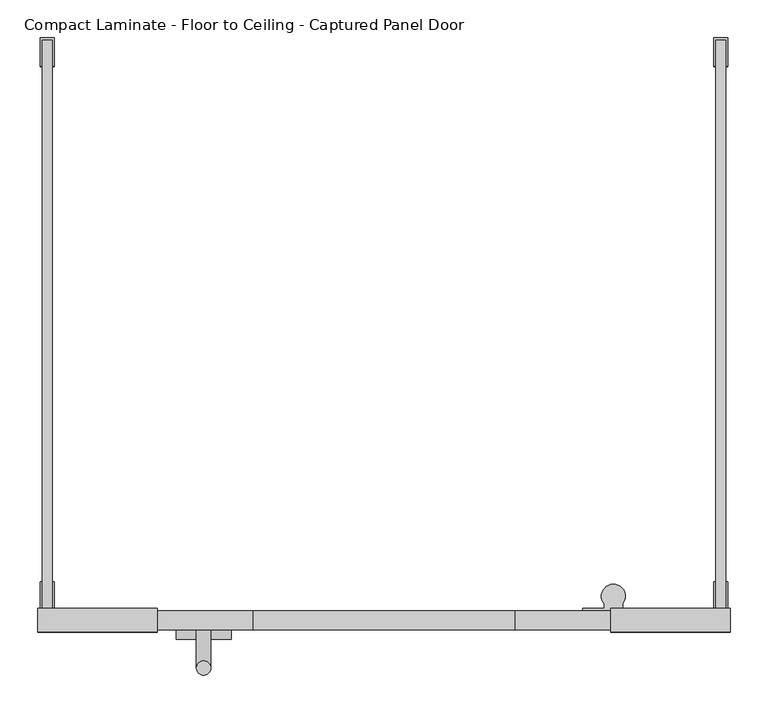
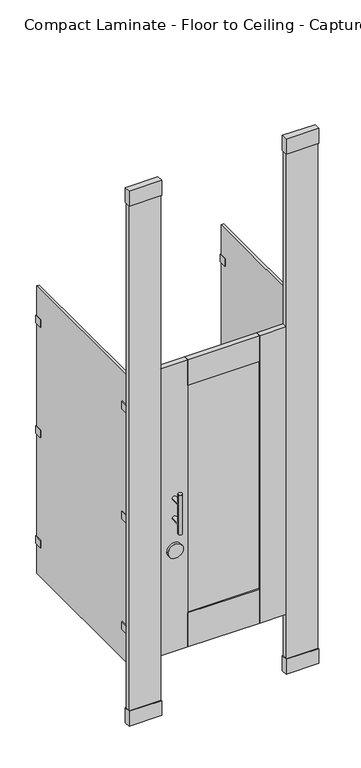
"""IFC4 building model written with IfcOpenShell, lengths in millimetres: proxy geometry, Toilet-Partition_Ironwood-Mfg_Compact-Laminate : Compact Laminate - Floor to Ceiling - Captured Panel Door."""

from ifc_helpers import new_model, si_unit, point, frame, frame_2d, origin, origin_with_axes, place, context, project, spatial, polyline, circle_curve, ellipse_curve, trimmed, segment, composite_curve, outline, extrude, source, transform, mapped, element, save
from ifc_brep_helpers import plane_surface, cylinder_surface, advanced_brep


def compact_laminate_floor_to_ceiling_captured_panel_door_38d99a87(model_context):
    return source(origin(), model_context, "Body", "SolidModel", [
        extrude(outline(polyline([(542.925, -790.575), (542.925, -758.825), (701.675, -758.825), (701.675, -790.575), (542.925, -790.575)])), frame((0.0, 0.0, 2667.0), z_axis=(0.0, 0.0, 1.0), x_axis=(1.0, 0.0, 0.0)), (0.0, 0.0, 1.0), 76.1999999),
        extrude(outline(polyline([(701.675, -758.825), (701.675, -790.575), (542.925, -790.575), (542.925, -758.825), (701.675, -758.825)])), origin_with_axes(), (0.0, 0.0, 1.0), 76.2),
        extrude(outline(polyline([(698.5, -762.0), (698.5, -787.4), (546.1, -787.4), (546.1, -762.0), (698.5, -762.0)])), origin_with_axes(), (0.0, 0.0, 1.0), 2667.0),
        extrude(outline(polyline([(-60.325, -790.575), (-219.075, -790.575), (-219.075, -758.825), (-60.325, -758.825), (-60.325, -790.575)])), frame((0.0, 0.0, 2667.0), z_axis=(0.0, 0.0, 1.0), x_axis=(1.0, 0.0, 0.0)), (0.0, 0.0, 1.0), 76.1999999),
        extrude(outline(polyline([(-219.075, -758.825), (-60.325, -758.825), (-60.325, -790.575), (-219.075, -790.575), (-219.075, -758.825)])), origin_with_axes(), (0.0, 0.0, 1.0), 76.2),
        extrude(outline(polyline([(-215.9, -762.0), (-63.5, -762.0), (-63.5, -787.4), (-215.9, -787.4), (-215.9, -762.0)])), origin_with_axes(), (0.0, 0.0, 1.0), 2667.0),
        extrude(outline(polyline([(415.925, -781.05), (66.675, -781.05), (66.675, -768.35), (415.925, -768.35), (415.925, -781.05)])), frame((0.0, 0.0, 479.425), z_axis=(0.0, 0.0, 1.0), x_axis=(1.0, 0.0, 0.0)), (0.0, 0.0, 1.0), 1168.4),
        extrude(outline(polyline([(66.675, -762.0), (66.675, -787.4), (-63.5, -787.4), (-63.5, -762.0), (66.675, -762.0)])), frame((0.0, 0.0, 304.8), z_axis=(0.0, 0.0, 1.0), x_axis=(1.0, 0.0, 0.0)), (0.0, 0.0, 1.0), 1473.2),
        extrude(outline(polyline([(415.925, -762.0), (546.1, -762.0), (546.1, -787.4), (415.925, -787.4), (415.925, -762.0)])), frame((0.0, 0.0, 304.8), z_axis=(0.0, 0.0, 1.0), x_axis=(1.0, 0.0, 0.0)), (0.0, 0.0, 1.0), 1473.2),
        extrude(outline(polyline([(415.925, -762.0), (415.925, -787.4), (66.675, -787.4), (66.675, -762.0), (415.925, -762.0)])), frame((0.0, 0.0, 1647.825), z_axis=(0.0, 0.0, 1.0), x_axis=(1.0, 0.0, 0.0)), (0.0, 0.0, 1.0), 130.175),
        extrude(outline(polyline([(415.925, -762.0), (415.925, -787.4), (66.675, -787.4), (66.675, -762.0), (415.925, -762.0)])), frame((0.0, 0.0, 304.8), z_axis=(0.0, 0.0, 1.0), x_axis=(1.0, 0.0, 0.0)), (0.0, 0.0, 1.0), 174.625),
        extrude(outline(composite_curve([segment(trimmed(circle_curve(frame_2d((827.0875, 1.5875)), 36.5125), [point((827.0875, -34.925))], [point((827.0875, 38.1))], False, "CARTESIAN"), True, "CONTINUOUS"), segment(trimmed(circle_curve(frame_2d((827.0875, 1.5875)), 36.5125), [point((827.0875, 38.1))], [point((827.0875, -34.925))], False, "CARTESIAN"), True, "CONTINUOUS")], self_intersect=False)), frame((0.0, -800.1, 0.0), z_axis=(0.0, 1.0, 0.0), x_axis=(0.0, 0.0, 1.0)), (0.0, 0.0, 1.0), 12.7),
        advanced_brep(
        [(-7.9375, -787.4, 1092.2), (11.1125, -787.4, 1092.2), (-7.9375, -787.4, 990.6), (11.1125, -787.4, 990.6), (11.1125, -838.2, 1092.2), (-7.9375, -838.2, 1092.2), (11.1125, -838.2, 990.6), (-7.9375, -838.2, 990.6), (-7.9375, -838.2, 1143.0), (11.1125, -838.2, 1143.0), (-7.9375, -838.2, 939.8), (11.1125, -838.2, 939.8)],
        [
            (0, 1, circle_curve(frame((1.5875, -787.4, 1092.2), z_axis=(0.0, 1.0, 0.0), x_axis=(1.0, 0.0, 0.0)), 9.525)),
            (1, 0, circle_curve(frame((1.5875, -787.4, 1092.2), z_axis=(0.0, 1.0, 0.0), x_axis=(1.0, 0.0, 0.0)), 9.525)),
            (2, 3, circle_curve(frame((1.5875, -787.4, 990.6), z_axis=(0.0, 1.0, 0.0), x_axis=(1.0, 0.0, 0.0)), 9.525)),
            (3, 2, circle_curve(frame((1.5875, -787.4, 990.6), z_axis=(0.0, 1.0, 0.0), x_axis=(1.0, 0.0, 0.0)), 9.525)),
            (1, 4),
            (4, 5, ellipse_curve(frame((1.5875, -838.2, 1092.2), z_axis=(0.0, 0.7071067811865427, 0.7071067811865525), x_axis=(0.0, -0.7071067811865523, 0.7071067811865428)), 13.4703842, 9.525)),
            (5, 0),
            (5, 4, ellipse_curve(frame((1.5875, -838.2, 1092.2), z_axis=(0.0, 0.7071067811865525, -0.7071067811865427), x_axis=(0.0, -0.7071067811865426, -0.7071067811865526)), 13.4703842, 9.525)),
            (3, 6),
            (6, 7, ellipse_curve(frame((1.5875, -838.2, 990.6), z_axis=(0.0, 0.7071067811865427, 0.7071067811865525), x_axis=(0.0, -0.7071067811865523, 0.7071067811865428)), 13.4703842, 9.525)),
            (7, 2),
            (7, 6, ellipse_curve(frame((1.5875, -838.2, 990.6), z_axis=(0.0, 0.7071067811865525, -0.7071067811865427), x_axis=(0.0, -0.7071067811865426, -0.7071067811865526)), 13.4703842, 9.525)),
            (8, 9, circle_curve(frame((1.5875, -838.2, 1143.0), z_axis=(0.0, 0.0, 1.0), x_axis=(1.0, 0.0, 0.0)), 9.525)),
            (9, 8, circle_curve(frame((1.5875, -838.2, 1143.0), z_axis=(0.0, 0.0, 1.0), x_axis=(1.0, 0.0, 0.0)), 9.525)),
            (10, 11, circle_curve(frame((1.5875, -838.2, 939.8), z_axis=(0.0, 0.0, -1.0), x_axis=(1.0, 0.0, 0.0)), 9.525)),
            (11, 10, circle_curve(frame((1.5875, -838.2, 939.8), z_axis=(0.0, 0.0, -1.0), x_axis=(1.0, 0.0, 0.0)), 9.525)),
            (8, 5),
            (5, 7),
            (7, 10),
            (11, 6),
            (6, 4),
            (4, 9),
        ],
        [
            plane_surface(frame((11.1125, -787.4, 1092.2), z_axis=(0.0, 1.0, 0.0), x_axis=(0.0, 0.0, -1.0))),
            cylinder_surface(frame((1.5875, -787.4, 1092.2), z_axis=(0.0, -1.0, 0.0), x_axis=(1.0, 0.0, 0.0)), 9.525),
            cylinder_surface(frame((1.5875, -787.4, 990.6), z_axis=(0.0, -1.0, 0.0), x_axis=(1.0, 0.0, 0.0)), 9.525),
            plane_surface(frame((11.1125, -838.2, 1143.0), z_axis=(0.0, 0.0, 1.0), x_axis=(0.0, 1.0, 0.0))),
            plane_surface(frame((11.1125, -838.2, 939.8), z_axis=(0.0, 0.0, -1.0), x_axis=(0.0, -1.0, 0.0))),
            cylinder_surface(frame((1.5875, -838.2, 939.8), z_axis=(0.0, 0.0, 1.0), x_axis=(1.0, 0.0, 0.0)), 9.525),
        ],
        [
            (0, [[1, 2]]),
            (0, [[3, 4]]),
            (1, [[-2, 5, 6, 7]]),
            (1, [[-1, -7, 8, -5]]),
            (2, [[-4, 9, 10, 11]]),
            (2, [[-3, -11, 12, -9]]),
            (3, [[13, 14]]),
            (4, [[15, 16]]),
            (5, [[-13, 17, 18, 19, -16, 20, 21, 22]]),
            (5, [[-14, -22, -8, -17]]),
            (5, [[-15, -19, -10, -20]]),
            (5, [[-18, -6, -21, -12]]),
        ],
    ),
        extrude(outline(composite_curve([segment(polyline([(581.3737081, -762.0), (505.1737081, -762.0), (505.1737081, -758.825), (533.7487081, -758.825), (533.7487081, -752.9581331)]), True, "CONTINUOUS"), segment(trimmed(circle_curve(frame_2d((546.1, -742.8902139)), 15.9347861), [point((533.7487081, -752.9581331))], [point((558.4512919, -752.9581331))], False, "CARTESIAN"), True, "CONTINUOUS"), segment(polyline([(558.4512919, -752.9581331), (558.4512919, -758.825), (581.3737081, -758.825), (581.3737081, -762.0)]), True, "CONTINUOUS")], self_intersect=False)), frame((0.0, 0.0, 1574.8), z_axis=(0.0, 0.0, 1.0), x_axis=(1.0, 0.0, 0.0)), (0.0, 0.0, 1.0), 63.5),
        extrude(outline(composite_curve([segment(polyline([(581.3737081, -762.0), (505.1737081, -762.0), (505.1737081, -758.825), (533.7487081, -758.825), (533.7487081, -752.9581331)]), True, "CONTINUOUS"), segment(trimmed(circle_curve(frame_2d((546.1, -742.8902139)), 15.9347861), [point((533.7487081, -752.9581331))], [point((558.4512919, -752.9581331))], False, "CARTESIAN"), True, "CONTINUOUS"), segment(polyline([(558.4512919, -752.9581331), (558.4512919, -758.825), (581.3737081, -758.825), (581.3737081, -762.0)]), True, "CONTINUOUS")], self_intersect=False)), frame((0.0, 0.0, 1009.6500001), z_axis=(0.0, 0.0, 1.0), x_axis=(1.0, 0.0, 0.0)), (0.0, 0.0, 1.0), 63.5),
        extrude(outline(composite_curve([segment(polyline([(581.3737081, -762.0), (505.1737081, -762.0), (505.1737081, -758.825), (533.7487081, -758.825), (533.7487081, -752.9581331)]), True, "CONTINUOUS"), segment(trimmed(circle_curve(frame_2d((546.1, -742.8902139)), 15.9347861), [point((533.7487081, -752.9581331))], [point((558.4512919, -752.9581331))], False, "CARTESIAN"), True, "CONTINUOUS"), segment(polyline([(558.4512919, -752.9581331), (558.4512919, -758.825), (581.3737081, -758.825), (581.3737081, -762.0)]), True, "CONTINUOUS")], self_intersect=False)), frame((0.0, 0.0, 444.5), z_axis=(0.0, 0.0, 1.0), x_axis=(1.0, 0.0, 0.0)), (0.0, 0.0, 1.0), 63.5),
        extrude(outline(polyline([(682.498, -723.9), (682.498, -758.825), (695.198, -758.825), (695.198, -723.9), (698.373, -723.9), (698.373, -762.0), (679.323, -762.0), (679.323, -723.9), (682.498, -723.9)])), frame((0.0, 0.0, 1587.8188137), z_axis=(0.0, 0.0, 1.0), x_axis=(1.0, 0.0, 0.0)), (0.0, 0.0, 1.0), 38.1),
        extrude(outline(polyline([(682.498, -38.1), (679.323, -38.1), (679.323, 0.0), (698.373, 0.0), (698.373, -38.1), (695.198, -38.1), (695.198, -3.175), (682.498, -3.175), (682.498, -38.1)])), frame((0.0, 0.0, 1587.8188137), z_axis=(0.0, 0.0, 1.0), x_axis=(1.0, 0.0, 0.0)), (0.0, 0.0, 1.0), 38.1),
        extrude(outline(polyline([(682.498, -723.9), (682.498, -758.825), (695.198, -758.825), (695.198, -723.9), (698.373, -723.9), (698.373, -762.0), (679.323, -762.0), (679.323, -723.9), (682.498, -723.9)])), frame((0.0, 0.0, 1022.35), z_axis=(0.0, 0.0, 1.0), x_axis=(1.0, 0.0, 0.0)), (0.0, 0.0, 1.0), 38.1),
        extrude(outline(polyline([(682.498, -38.1), (679.323, -38.1), (679.323, 0.0), (698.373, 0.0), (698.373, -38.1), (695.198, -38.1), (695.198, -3.175), (682.498, -3.175), (682.498, -38.1)])), frame((0.0, 0.0, 1022.35), z_axis=(0.0, 0.0, 1.0), x_axis=(1.0, 0.0, 0.0)), (0.0, 0.0, 1.0), 38.1),
        extrude(outline(polyline([(682.498, -723.9), (682.498, -758.825), (695.198, -758.825), (695.198, -723.9), (698.373, -723.9), (698.373, -762.0), (679.323, -762.0), (679.323, -723.9), (682.498, -723.9)])), frame((0.0, 0.0, 457.2), z_axis=(0.0, 0.0, 1.0), x_axis=(1.0, 0.0, 0.0)), (0.0, 0.0, 1.0), 38.1),
        extrude(outline(polyline([(682.498, -38.1), (679.323, -38.1), (679.323, 0.0), (698.373, 0.0), (698.373, -38.1), (695.198, -38.1), (695.198, -3.175), (682.498, -3.175), (682.498, -38.1)])), frame((0.0, 0.0, 457.2), z_axis=(0.0, 0.0, 1.0), x_axis=(1.0, 0.0, 0.0)), (0.0, 0.0, 1.0), 38.1),
        extrude(outline(polyline([(-212.598, -723.9), (-212.598, -758.825), (-199.898, -758.825), (-199.898, -723.9), (-196.723, -723.9), (-196.723, -762.0), (-215.773, -762.0), (-215.773, -723.9), (-212.598, -723.9)])), frame((0.0, 0.0, 1587.8188137), z_axis=(0.0, 0.0, 1.0), x_axis=(1.0, 0.0, 0.0)), (0.0, 0.0, 1.0), 38.1),
        extrude(outline(polyline([(-212.598, -38.1), (-215.773, -38.1), (-215.773, 0.0), (-196.723, 0.0), (-196.723, -38.1), (-199.898, -38.1), (-199.898, -3.175), (-212.598, -3.175), (-212.598, -38.1)])), frame((0.0, 0.0, 1587.8188137), z_axis=(0.0, 0.0, 1.0), x_axis=(1.0, 0.0, 0.0)), (0.0, 0.0, 1.0), 38.1),
        extrude(outline(polyline([(-212.598, -723.9), (-212.598, -758.825), (-199.898, -758.825), (-199.898, -723.9), (-196.723, -723.9), (-196.723, -762.0), (-215.773, -762.0), (-215.773, -723.9), (-212.598, -723.9)])), frame((0.0, 0.0, 1022.35), z_axis=(0.0, 0.0, 1.0), x_axis=(1.0, 0.0, 0.0)), (0.0, 0.0, 1.0), 38.1),
        extrude(outline(polyline([(-212.598, -38.1), (-215.773, -38.1), (-215.773, 0.0), (-196.723, 0.0), (-196.723, -38.1), (-199.898, -38.1), (-199.898, -3.175), (-212.598, -3.175), (-212.598, -38.1)])), frame((0.0, 0.0, 1022.35), z_axis=(0.0, 0.0, 1.0), x_axis=(1.0, 0.0, 0.0)), (0.0, 0.0, 1.0), 38.1),
        extrude(outline(polyline([(-212.598, -723.9), (-212.598, -758.825), (-199.898, -758.825), (-199.898, -723.9), (-196.723, -723.9), (-196.723, -762.0), (-215.773, -762.0), (-215.773, -723.9), (-212.598, -723.9)])), frame((0.0, 0.0, 457.2), z_axis=(0.0, 0.0, 1.0), x_axis=(1.0, 0.0, 0.0)), (0.0, 0.0, 1.0), 38.1),
        extrude(outline(polyline([(-212.598, -38.1), (-215.773, -38.1), (-215.773, 0.0), (-196.723, 0.0), (-196.723, -38.1), (-199.898, -38.1), (-199.898, -3.175), (-212.598, -3.175), (-212.598, -38.1)])), frame((0.0, 0.0, 457.2), z_axis=(0.0, 0.0, 1.0), x_axis=(1.0, 0.0, 0.0)), (0.0, 0.0, 1.0), 38.1),
        extrude(outline(polyline([(-199.898, -3.175), (-199.898, -758.825), (-212.598, -758.825), (-212.598, -3.175), (-199.898, -3.175)])), frame((0.0, 0.0, 304.8), z_axis=(0.0, 0.0, 1.0), x_axis=(1.0, 0.0, 0.0)), (0.0, 0.0, 1.0), 1473.2),
        extrude(outline(polyline([(695.198, -3.175), (695.198, -758.825), (682.498, -758.825), (682.498, -3.175), (695.198, -3.175)])), frame((0.0, 0.0, 304.8), z_axis=(0.0, 0.0, 1.0), x_axis=(1.0, 0.0, 0.0)), (0.0, 0.0, 1.0), 1473.2),
    ])


if __name__ == "__main__":
    model = new_model("IFC4")
    model_context = context("Model", 3, world=origin())
    ifc_project = project(units=[si_unit("LENGTHUNIT", "METRE", prefix="MILLI")], contexts=[model_context])
    site = spatial("IfcSite", under=ifc_project)
    building = spatial("IfcBuilding", under=site)
    placement = place(None, origin())
    compact_laminate_floor_to_ceiling_captured_panel_door_shape = compact_laminate_floor_to_ceiling_captured_panel_door_38d99a87(model_context)
    element("IfcBuildingElementProxy", 1, Name="Toilet-Partition_Ironwood-Mfg_Compact-Laminate : Compact Laminate - Floor to Ceiling - Captured Panel Door", ObjectType="Toilet-Partition_Ironwood-Mfg_Compact-Laminate : Compact Laminate - Floor to Ceiling - Captured Panel Door", at=placement, inside=building, context=model_context, shape_type="MappedRepresentation", body=[
        mapped(compact_laminate_floor_to_ceiling_captured_panel_door_shape, transform((0.0, 0.0, 0.0), x_axis=(1.0, 0.0, 0.0), y_axis=(0.0, 1.0, 0.0), z_axis=(0.0, 0.0, 1.0))),
    ])
    save(model, "model.ifc")
